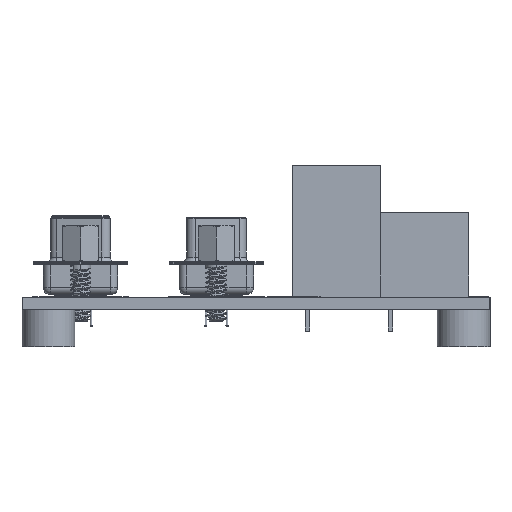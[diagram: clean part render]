
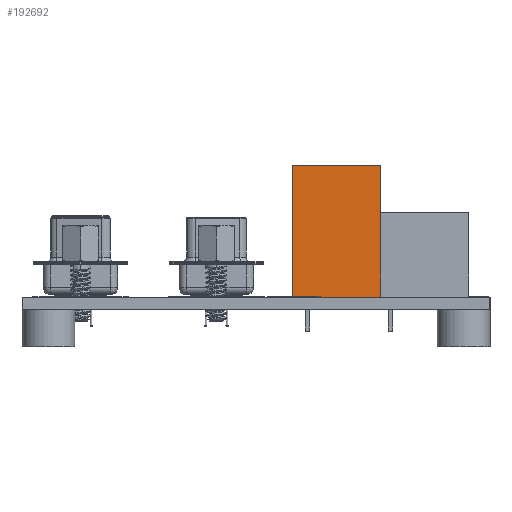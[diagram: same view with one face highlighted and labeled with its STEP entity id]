
A CAD part, left-side view. The second image highlights one B-rep face of the part: STEP entity #192692.
In plain terms, the highlighted planar face has unit normal (-1, 0, 0).
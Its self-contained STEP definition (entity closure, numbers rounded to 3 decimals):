
#192354 = VERTEX_POINT('',#192355);
#192355 = CARTESIAN_POINT('',(-4.25,0.,11.2));
#192363 = EDGE_CURVE('',#192354,#192364,#192366,.T.);
#192364 = VERTEX_POINT('',#192365);
#192365 = CARTESIAN_POINT('',(-4.25,0.,17.5));
#192366 = LINE('',#192367,#192368);
#192367 = CARTESIAN_POINT('',(-4.25,0.,0.));
#192368 = VECTOR('',#192369,1.);
#192369 = DIRECTION('',(0.,0.,1.));
#192573 = EDGE_CURVE('',#192574,#192364,#192576,.T.);
#192574 = VERTEX_POINT('',#192575);
#192575 = CARTESIAN_POINT('',(-4.25,11.7,17.5));
#192576 = LINE('',#192577,#192578);
#192577 = CARTESIAN_POINT('',(-4.25,11.7,17.5));
#192578 = VECTOR('',#192579,1.);
#192579 = DIRECTION('',(0.,-1.,0.));
#192692 = ADVANCED_FACE('',(#192693),#192719,.F.);
#192693 = FACE_BOUND('',#192694,.F.);
#192694 = EDGE_LOOP('',(#192695,#192703,#192704,#192705,#192713));
#192695 = ORIENTED_EDGE('',*,*,#192696,.T.);
#192696 = EDGE_CURVE('',#192697,#192574,#192699,.T.);
#192697 = VERTEX_POINT('',#192698);
#192698 = CARTESIAN_POINT('',(-4.25,11.7,0.));
#192699 = LINE('',#192700,#192701);
#192700 = CARTESIAN_POINT('',(-4.25,11.7,0.));
#192701 = VECTOR('',#192702,1.);
#192702 = DIRECTION('',(0.,0.,1.));
#192703 = ORIENTED_EDGE('',*,*,#192573,.T.);
#192704 = ORIENTED_EDGE('',*,*,#192363,.F.);
#192705 = ORIENTED_EDGE('',*,*,#192706,.F.);
#192706 = EDGE_CURVE('',#192707,#192354,#192709,.T.);
#192707 = VERTEX_POINT('',#192708);
#192708 = CARTESIAN_POINT('',(-4.25,0.,0.));
#192709 = LINE('',#192710,#192711);
#192710 = CARTESIAN_POINT('',(-4.25,0.,0.));
#192711 = VECTOR('',#192712,1.);
#192712 = DIRECTION('',(0.,0.,1.));
#192713 = ORIENTED_EDGE('',*,*,#192714,.F.);
#192714 = EDGE_CURVE('',#192697,#192707,#192715,.T.);
#192715 = LINE('',#192716,#192717);
#192716 = CARTESIAN_POINT('',(-4.25,11.7,0.));
#192717 = VECTOR('',#192718,1.);
#192718 = DIRECTION('',(0.,-1.,0.));
#192719 = PLANE('',#192720);
#192720 = AXIS2_PLACEMENT_3D('',#192721,#192722,#192723);
#192721 = CARTESIAN_POINT('',(-4.25,11.7,0.));
#192722 = DIRECTION('',(1.,0.,0.));
#192723 = DIRECTION('',(0.,-1.,0.));
